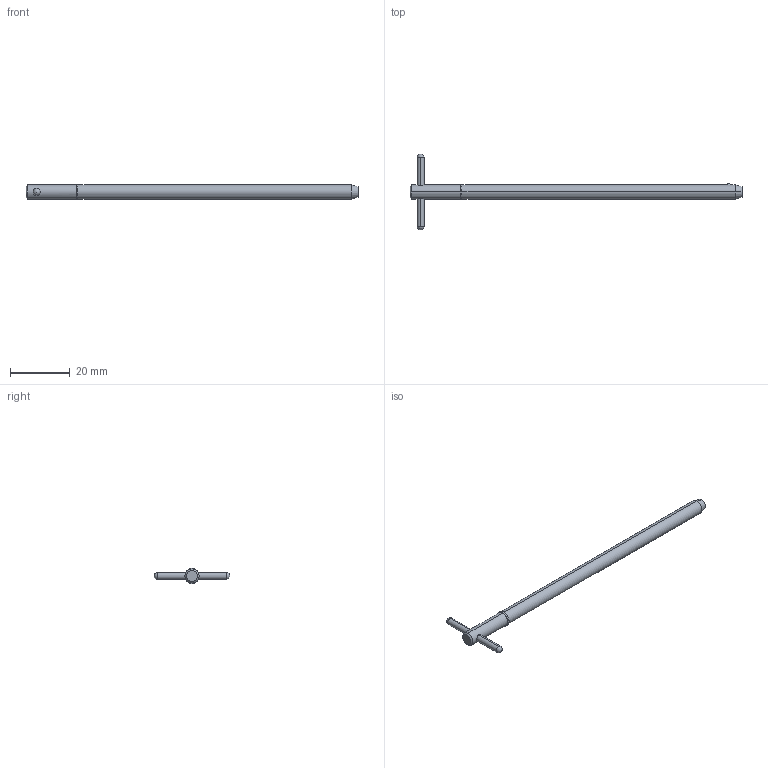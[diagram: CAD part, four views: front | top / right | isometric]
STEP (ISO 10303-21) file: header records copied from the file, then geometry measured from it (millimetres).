
FILE_DESCRIPTION (( 'STEP AP203' ), '1' );
FILE_NAME ('33018.W1835.step', '2024-11-19T17:07:30', ( '' ), ( '' ), 'SwSTEP 2.0', 'SolidWorks 2019', '' );
FILE_SCHEMA (( 'CONFIG_CONTROL_DESIGN' ));
Length unit declared in the file: millimetre
Products named in the file (3): Part1_33018.W1835; Part2_33018.W1835; 33018.W1835
Assembly tree (2 placements, depth 2):
  33018.W1835
    Part1_33018.W1835
    Part2_33018.W1835
Bounding box: 111.43 x 25.4 x 5.24 mm (x, y, z)
Volume: 2063.4 mm3; surface area: 1909.3 mm2
Topology: 2 solids, 2 shells, 22 faces, 47 edges, 30 vertices
Faces by surface type: cylinder 10, sphere 4, cone 4, plane 4
Entity records: 961 total; most frequent: CARTESIAN_POINT 204, DIRECTION 110, ORIENTED_EDGE 82, AXIS2_PLACEMENT_3D 48, EDGE_CURVE 41, EDGE_LOOP 27, PERSON_AND_ORGANIZATION 26, VERTEX_POINT 26
